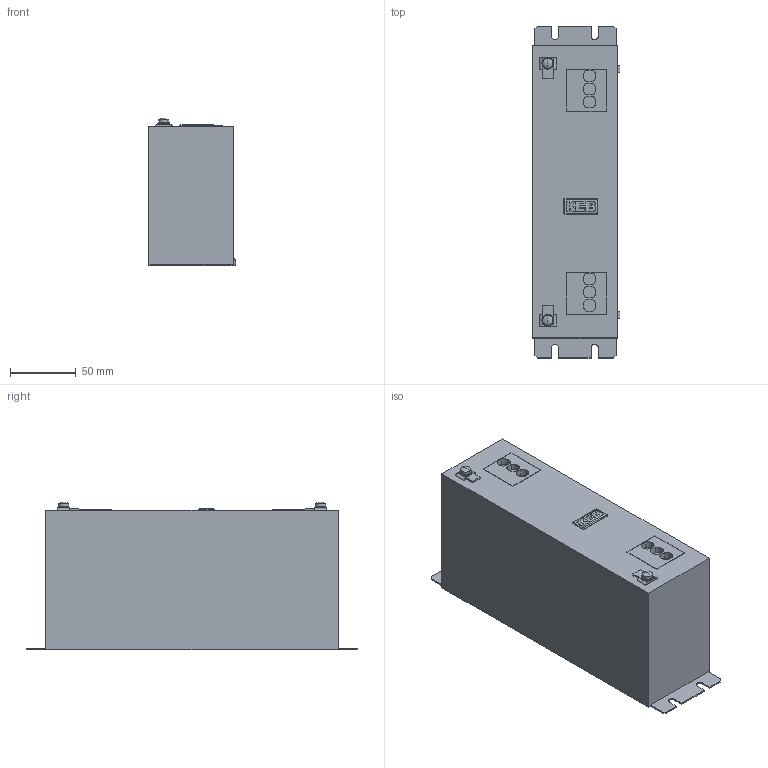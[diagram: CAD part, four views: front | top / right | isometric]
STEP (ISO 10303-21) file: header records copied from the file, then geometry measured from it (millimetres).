
FILE_DESCRIPTION (( 'STEP AP214' ), '1' );
FILE_NAME ('00E6X01-0016.STEP', '2023-07-10T14:24:32', ( '' ), ( '' ), 'SwSTEP 2.0', 'SolidWorks 2022', '' );
FILE_SCHEMA (( 'AUTOMOTIVE_DESIGN' ));
Length unit declared in the file: millimetre
Products named in the file (1): 00E6X01-0016
Bounding box: 66.7 x 252 x 112.1 mm (x, y, z)
Volume: 1530976.9 mm3; surface area: 94589.6 mm2
Topology: 1 solids, 1 shells, 194 faces, 505 edges, 332 vertices
Faces by surface type: plane 122, cylinder 51, bspline 13, sphere 4, cone 4
Entity records: 6846 total; most frequent: CARTESIAN_POINT 1925, ORIENTED_EDGE 1010, DIRECTION 897, EDGE_CURVE 505, VERTEX_POINT 332, AXIS2_PLACEMENT_3D 300, LINE 297, VECTOR 297
